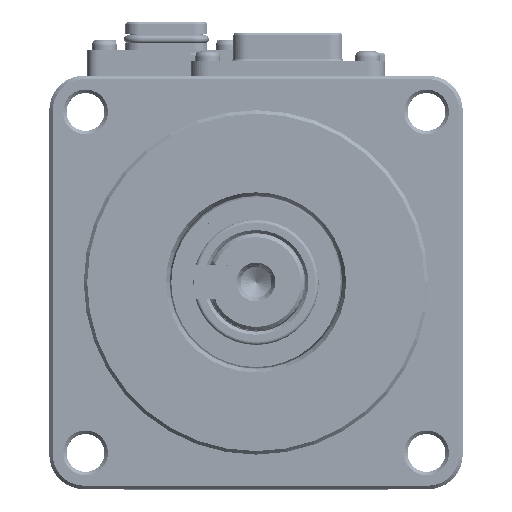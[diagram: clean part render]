
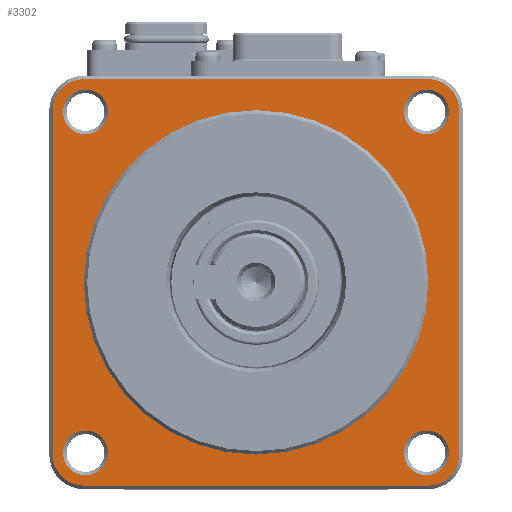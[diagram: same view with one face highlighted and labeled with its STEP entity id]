
A CAD part, top view. The second image highlights one B-rep face of the part: STEP entity #3302.
In plain terms, the highlighted planar face has unit normal (0, 0, 1).
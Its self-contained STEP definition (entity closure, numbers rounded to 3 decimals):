
#469=CARTESIAN_POINT('',(25.,-25.,13.7));
#470=DIRECTION('',(0.,0.,-1.));
#471=DIRECTION('',(1.,0.,0.));
#472=AXIS2_PLACEMENT_3D('',#469,#470,#471);
#474=DIRECTION('',(-1.,0.,0.));
#475=VECTOR('',#474,50.);
#476=CARTESIAN_POINT('',(25.,-29.5,13.7));
#477=LINE('',#476,#475);
#478=CARTESIAN_POINT('',(-25.,-25.,13.7));
#479=DIRECTION('',(0.,0.,-1.));
#480=DIRECTION('',(0.,-1.,0.));
#481=AXIS2_PLACEMENT_3D('',#478,#479,#480);
#483=DIRECTION('',(0.,1.,0.));
#484=VECTOR('',#483,50.);
#485=CARTESIAN_POINT('',(-29.5,-25.,13.7));
#486=LINE('',#485,#484);
#487=CARTESIAN_POINT('',(-25.,25.,13.7));
#488=DIRECTION('',(0.,0.,-1.));
#489=DIRECTION('',(-1.,0.,0.));
#490=AXIS2_PLACEMENT_3D('',#487,#488,#489);
#492=DIRECTION('',(1.,0.,0.));
#493=VECTOR('',#492,50.);
#494=CARTESIAN_POINT('',(-25.,29.5,13.7));
#495=LINE('',#494,#493);
#496=CARTESIAN_POINT('',(25.,25.,13.7));
#497=DIRECTION('',(0.,0.,-1.));
#498=DIRECTION('',(0.,1.,0.));
#499=AXIS2_PLACEMENT_3D('',#496,#497,#498);
#501=DIRECTION('',(0.,-1.,0.));
#502=VECTOR('',#501,50.);
#503=CARTESIAN_POINT('',(29.5,25.,13.7));
#504=LINE('',#503,#502);
#505=CARTESIAN_POINT('',(-24.749,24.749,13.7));
#506=DIRECTION('',(0.,0.,-1.));
#507=DIRECTION('',(1.,0.,0.));
#508=AXIS2_PLACEMENT_3D('',#505,#506,#507);
#510=CARTESIAN_POINT('',(-24.749,24.749,13.7));
#511=DIRECTION('',(0.,0.,-1.));
#512=DIRECTION('',(-1.,0.,0.));
#513=AXIS2_PLACEMENT_3D('',#510,#511,#512);
#515=CARTESIAN_POINT('',(24.749,24.749,13.7));
#516=DIRECTION('',(0.,0.,-1.));
#517=DIRECTION('',(0.,1.,0.));
#518=AXIS2_PLACEMENT_3D('',#515,#516,#517);
#520=CARTESIAN_POINT('',(24.749,24.749,13.7));
#521=DIRECTION('',(0.,0.,-1.));
#522=DIRECTION('',(0.,-1.,0.));
#523=AXIS2_PLACEMENT_3D('',#520,#521,#522);
#525=CARTESIAN_POINT('',(24.749,-24.749,13.7));
#526=DIRECTION('',(0.,0.,-1.));
#527=DIRECTION('',(1.,0.,0.));
#528=AXIS2_PLACEMENT_3D('',#525,#526,#527);
#530=CARTESIAN_POINT('',(24.749,-24.749,13.7));
#531=DIRECTION('',(0.,0.,-1.));
#532=DIRECTION('',(-1.,0.,0.));
#533=AXIS2_PLACEMENT_3D('',#530,#531,#532);
#535=CARTESIAN_POINT('',(-24.749,-24.749,13.7));
#536=DIRECTION('',(0.,0.,-1.));
#537=DIRECTION('',(0.,1.,0.));
#538=AXIS2_PLACEMENT_3D('',#535,#536,#537);
#540=CARTESIAN_POINT('',(-24.749,-24.749,13.7));
#541=DIRECTION('',(0.,0.,-1.));
#542=DIRECTION('',(0.,-1.,0.));
#543=AXIS2_PLACEMENT_3D('',#540,#541,#542);
#554=CARTESIAN_POINT('',(0.,0.,13.7));
#555=DIRECTION('',(0.,0.,-1.));
#556=DIRECTION('',(0.,1.,0.));
#557=AXIS2_PLACEMENT_3D('',#554,#555,#556);
#596=CARTESIAN_POINT('',(0.,0.,13.7));
#597=DIRECTION('',(0.,0.,1.));
#598=DIRECTION('',(0.,1.,0.));
#599=AXIS2_PLACEMENT_3D('',#596,#597,#598);
#2212=CARTESIAN_POINT('',(0.,25.,13.7));
#2213=CARTESIAN_POINT('',(0.,-25.,13.7));
#2214=VERTEX_POINT('',#2212);
#2215=VERTEX_POINT('',#2213);
#2658=CARTESIAN_POINT('',(29.5,-25.,13.7));
#2659=CARTESIAN_POINT('',(25.,-29.5,13.7));
#2660=VERTEX_POINT('',#2658);
#2661=VERTEX_POINT('',#2659);
#2664=CARTESIAN_POINT('',(-25.,-29.5,
13.7));
#2665=VERTEX_POINT('',#2664);
#2668=CARTESIAN_POINT('',(-29.5,-25.,13.7));
#2669=VERTEX_POINT('',#2668);
#2672=CARTESIAN_POINT('',(-29.5,25.,13.7));
#2673=VERTEX_POINT('',#2672);
#2676=CARTESIAN_POINT('',(-25.,29.5,13.7));
#2677=VERTEX_POINT('',#2676);
#2680=CARTESIAN_POINT('',(25.,29.5,13.7));
#2681=VERTEX_POINT('',#2680);
#2684=CARTESIAN_POINT('',(29.5,25.,13.7));
#2685=VERTEX_POINT('',#2684);
#2704=CARTESIAN_POINT('',(-21.499,24.749,13.7));
#2705=CARTESIAN_POINT('',(-27.999,24.749,13.7));
#2706=VERTEX_POINT('',#2704);
#2707=VERTEX_POINT('',#2705);
#2712=CARTESIAN_POINT('',(24.749,27.999,13.7));
#2713=CARTESIAN_POINT('',(24.749,21.499,13.7));
#2714=VERTEX_POINT('',#2712);
#2715=VERTEX_POINT('',#2713);
#2720=CARTESIAN_POINT('',(27.999,-24.749,13.7));
#2721=CARTESIAN_POINT('',(21.499,-24.749,13.7));
#2722=VERTEX_POINT('',#2720);
#2723=VERTEX_POINT('',#2721);
#2728=CARTESIAN_POINT('',(-24.749,-21.499,13.7));
#2729=CARTESIAN_POINT('',(-24.749,-27.999,13.7));
#2730=VERTEX_POINT('',#2728);
#2731=VERTEX_POINT('',#2729);
#3252=CARTESIAN_POINT('',(0.,0.,13.7));
#3253=DIRECTION('',(0.,0.,1.));
#3254=DIRECTION('',(0.,1.,0.));
#3255=AXIS2_PLACEMENT_3D('',#3252,#3253,#3254);
#3256=PLANE('',#3255);
#3258=ORIENTED_EDGE('',*,*,#3257,.T.);
#3260=ORIENTED_EDGE('',*,*,#3259,.T.);
#3262=ORIENTED_EDGE('',*,*,#3261,.T.);
#3264=ORIENTED_EDGE('',*,*,#3263,.T.);
#3266=ORIENTED_EDGE('',*,*,#3265,.T.);
#3267=ORIENTED_EDGE('',*,*,#3069,.T.);
#3268=ORIENTED_EDGE('',*,*,#3085,.T.);
#3270=ORIENTED_EDGE('',*,*,#3269,.T.);
#3271=EDGE_LOOP('',(#3258,#3260,#3262,#3264,#3266,#3267,#3268,#3270));
#3272=FACE_OUTER_BOUND('',#3271,.F.);
#3274=ORIENTED_EDGE('',*,*,#3273,.F.);
#3276=ORIENTED_EDGE('',*,*,#3275,.T.);
#3277=EDGE_LOOP('',(#3274,#3276));
#3278=FACE_BOUND('',#3277,.F.);
#3280=ORIENTED_EDGE('',*,*,#3279,.F.);
#3281=ORIENTED_EDGE('',*,*,#3242,.F.);
#3282=EDGE_LOOP('',(#3280,#3281));
#3283=FACE_BOUND('',#3282,.F.);
#3285=ORIENTED_EDGE('',*,*,#3284,.F.);
#3287=ORIENTED_EDGE('',*,*,#3286,.F.);
#3288=EDGE_LOOP('',(#3285,#3287));
#3289=FACE_BOUND('',#3288,.F.);
#3291=ORIENTED_EDGE('',*,*,#3290,.F.);
#3293=ORIENTED_EDGE('',*,*,#3292,.F.);
#3294=EDGE_LOOP('',(#3291,#3293));
#3295=FACE_BOUND('',#3294,.F.);
#3297=ORIENTED_EDGE('',*,*,#3296,.F.);
#3299=ORIENTED_EDGE('',*,*,#3298,.F.);
#3300=EDGE_LOOP('',(#3297,#3299));
#3301=FACE_BOUND('',#3300,.F.);
#3302=ADVANCED_FACE('',(#3272,#3278,#3283,#3289,#3295,#3301),#3256,.T.);
#473=CIRCLE('',#472,4.5);
#482=CIRCLE('',#481,4.5);
#491=CIRCLE('',#490,4.5);
#500=CIRCLE('',#499,4.5);
#509=CIRCLE('',#508,3.25);
#514=CIRCLE('',#513,3.25);
#519=CIRCLE('',#518,3.25);
#524=CIRCLE('',#523,3.25);
#529=CIRCLE('',#528,3.25);
#534=CIRCLE('',#533,3.25);
#539=CIRCLE('',#538,3.25);
#544=CIRCLE('',#543,3.25);
#558=CIRCLE('',#557,25.);
#600=CIRCLE('',#599,25.);
#3069=EDGE_CURVE('',#2677,#2681,#495,.T.);
#3085=EDGE_CURVE('',#2681,#2685,#500,.T.);
#3242=EDGE_CURVE('',#2707,#2706,#514,.T.);
#3257=EDGE_CURVE('',#2660,#2661,#473,.T.);
#3259=EDGE_CURVE('',#2661,#2665,#477,.T.);
#3261=EDGE_CURVE('',#2665,#2669,#482,.T.);
#3263=EDGE_CURVE('',#2669,#2673,#486,.T.);
#3265=EDGE_CURVE('',#2673,#2677,#491,.T.);
#3269=EDGE_CURVE('',#2685,#2660,#504,.T.);
#3273=EDGE_CURVE('',#2214,#2215,#558,.T.);
#3275=EDGE_CURVE('',#2214,#2215,#600,.T.);
#3279=EDGE_CURVE('',#2706,#2707,#509,.T.);
#3284=EDGE_CURVE('',#2714,#2715,#519,.T.);
#3286=EDGE_CURVE('',#2715,#2714,#524,.T.);
#3290=EDGE_CURVE('',#2722,#2723,#529,.T.);
#3292=EDGE_CURVE('',#2723,#2722,#534,.T.);
#3296=EDGE_CURVE('',#2730,#2731,#539,.T.);
#3298=EDGE_CURVE('',#2731,#2730,#544,.T.);
